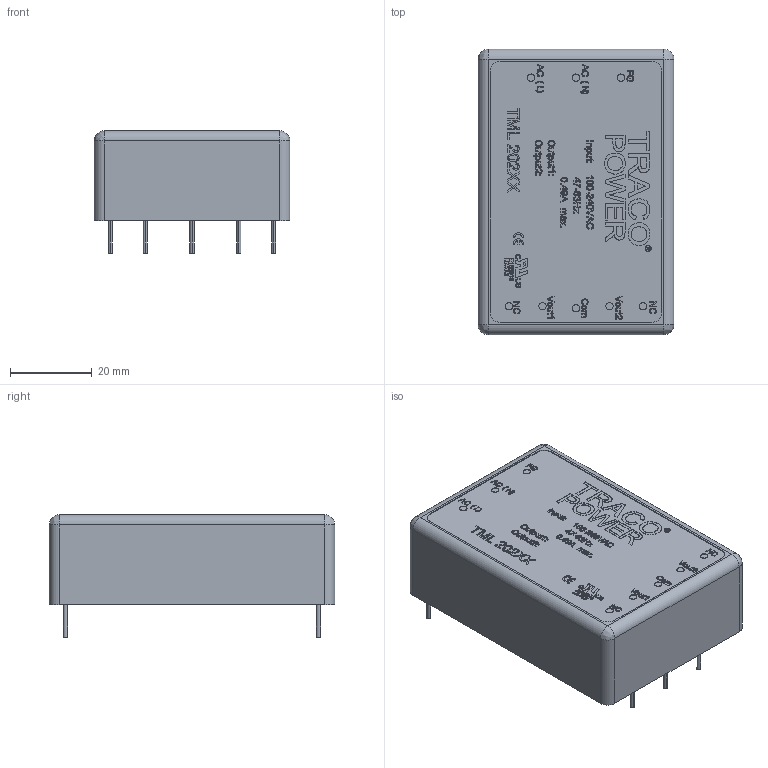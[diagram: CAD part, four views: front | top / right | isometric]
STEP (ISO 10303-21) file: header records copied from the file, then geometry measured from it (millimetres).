
FILE_DESCRIPTION (( 'STEP AP214' ), '1' );
FILE_NAME ('tml20-dual.STEP', '2015-02-19T14:25:48', ( '' ), ( '' ), 'SwSTEP 2.0', 'SolidWorks 2013', '' );
FILE_SCHEMA (( 'AUTOMOTIVE_DESIGN' ));
Length unit declared in the file: millimetre
Products named in the file (5): tml20_dual; TML20 B; tml20-dual; TML20; TML20 T
Assembly tree (4 placements, depth 3):
  tml20-dual
    TML20
      TML20 B
      tml20_dual
      TML20 T
Bounding box: 48 x 70 x 30 mm (x, y, z)
Volume: 10516.5 mm3; surface area: 29205.4 mm2
Topology: 2 solids, 3 shells, 1621 faces, 4298 edges, 2848 vertices
Faces by surface type: plane 982, bspline 547, cylinder 92
Entity records: 117062 total; most frequent: CARTESIAN_POINT 62339, ORIENTED_EDGE 8576, DIRECTION 5598, EDGE_CURVE 4290, VECTOR 3024, LINE 3024, VERTEX_POINT 2848, EDGE_LOOP 1812
